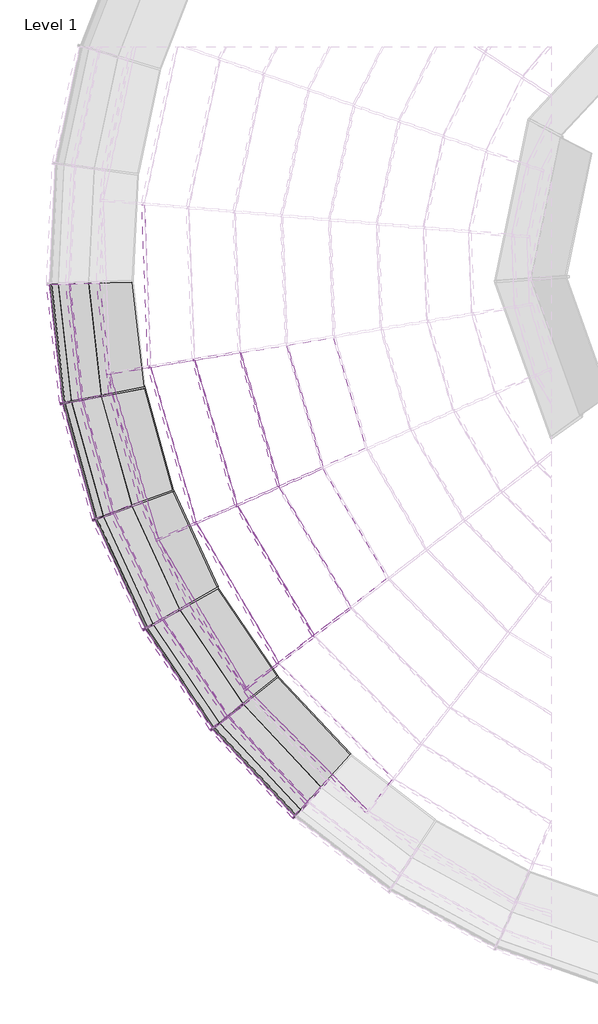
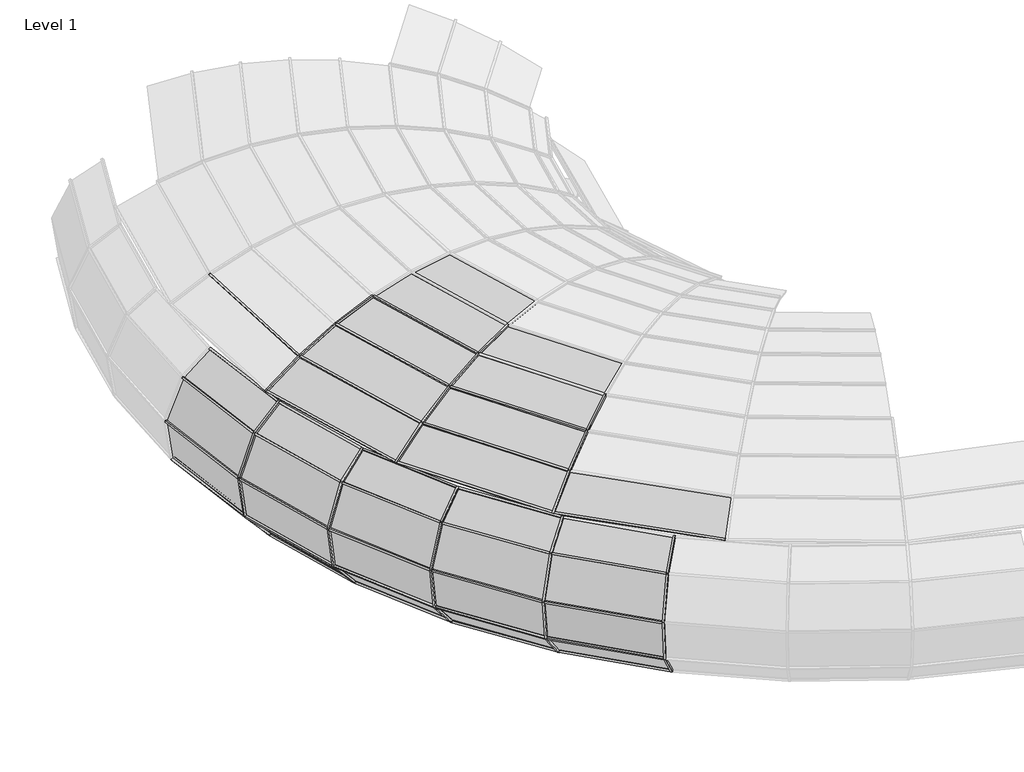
# One storey, part 1 of 23: 71 members, 35 plates.
"""IFC4 building model written with IfcOpenShell, lengths in millimetres."""

from ifc_helpers import new_model, si_unit, origin, place, context, project, spatial, transform, mapped, element, save
from components import member_6c4aaba8, member_0ea93e7c, member_12c77cbe, member_af15374c, member_9c203333, member_86c07ba8, member_0e8a41c0, member_f532ae18, member_ff5bcfe9, member_5080b2ef, member_d6b8231b, member_8c9da58c, member_391bee44, member_01ebdf2a, member_0cd36c09, member_e4cc2466, system_panel_glazed_dfe8d515, system_panel_glazed_f0cf6c0b, system_panel_glazed_2b57bb89, system_panel_glazed_39caee5c, system_panel_glazed_2fe36e08, system_panel_glazed_8ac96967, system_panel_glazed_5e26bc8e, system_panel_glazed_f7be4813, system_panel_glazed_5b1ce257, system_panel_glazed_7bf4cd1b

model = new_model("IFC4")

# Units and contexts
model_context = context("Model", 3, world=origin())
ifc_project = project(units=[si_unit("LENGTHUNIT", "METRE", prefix="MILLI")], contexts=[model_context])

# Site, building, storey
site = spatial("IfcSite", under=ifc_project)
building = spatial("IfcBuilding", under=site)
storey = spatial("IfcBuildingStorey", under=building, Name="Level 1", Elevation=0.0)

# Members
placement = place(None, origin())
member_shape = member_6c4aaba8(model_context)
element("IfcMember", 1, ObjectType="Rectangular Mullion : 1\" Square", at=placement, inside=storey, context=model_context, shape_type="MappedRepresentation", body=[
    mapped(member_shape, transform((-18158.8799169, -2681.3665666, 2378.3537392), x_axis=(0.904906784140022, 0.03462697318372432, 0.42419887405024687), y_axis=(-0.42388864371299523, -0.016220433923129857, 0.9055690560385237), z_axis=(0.03823780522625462, -0.9992686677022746, 0.0))),
])
element("IfcMember", 2, ObjectType="Rectangular Mullion : 1\" Square", at=placement, inside=storey, context=model_context, shape_type="MappedRepresentation", body=[
    mapped(member_shape, transform((-17580.3983963, -4661.1264421, 2378.3537392), x_axis=(0.8688379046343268, 0.2552959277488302, 0.4241988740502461), y_axis=(-0.40699277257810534, -0.11958916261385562, 0.905569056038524), z_axis=(0.28191768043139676, -0.9594385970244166, 0.0))),
])
element("IfcMember", 3, ObjectType="Rectangular Mullion : 1\" Square", at=placement, inside=storey, context=model_context, shape_type="MappedRepresentation", body=[
    mapped(member_shape, transform((-16534.4607919, -6438.7947357, 2378.3537392), x_axis=(0.7797991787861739, 0.46040043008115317, 0.42419887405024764), y_axis=(-0.36528405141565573, -0.2156669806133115, 0.9055690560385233), z_axis=(0.5084100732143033, -0.8611150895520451, 0.0))),
])
member_2_shape = member_0ea93e7c(model_context)
element("IfcMember", 4, ObjectType="Rectangular Mullion : 1\" Square", at=placement, inside=storey, context=model_context, shape_type="MappedRepresentation", body=[
    mapped(member_2_shape, transform((-16521.3628544, -4201.3843389, 2763.3769688), x_axis=(0.9401635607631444, 0.27625397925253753, 0.1994397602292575), y_axis=(-0.19135020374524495, -0.05622559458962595, 0.9799100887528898), z_axis=(0.2819176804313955, -0.959438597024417, 0.0))),
])
member_3_shape = member_12c77cbe(model_context)
element("IfcMember", 5, ObjectType="Rectangular Mullion : 1\" Square", at=placement, inside=storey, context=model_context, shape_type="MappedRepresentation", body=[
    mapped(member_3_shape, transform((-17061.430699, -4435.8353247, 2605.3528615), x_axis=(0.9109237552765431, 0.26766226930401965, 0.31396627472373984), y_axis=(-0.30123136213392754, -0.08851264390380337, 0.9494341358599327), z_axis=(0.2819176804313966, -0.9594385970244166, 0.0))),
])
element("IfcMember", 6, ObjectType="Rectangular Mullion : 1\" Square", at=placement, inside=storey, context=model_context, shape_type="MappedRepresentation", body=[
    mapped(member_3_shape, transform((-16086.5147526, -6093.2113097, 2605.3528615), x_axis=(0.8175720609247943, 0.4827018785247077, 0.3139662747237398), y_axis=(-0.2703610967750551, -0.15962361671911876, 0.9494341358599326), z_axis=(0.5084100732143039, -0.861115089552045, 0.0))),
])
member_4_shape = member_af15374c(model_context)
element("IfcMember", 7, ObjectType="Rectangular Mullion : 1\" Square", at=placement, inside=storey, context=model_context, shape_type="MappedRepresentation", body=[
    mapped(member_4_shape, transform((-18682.519146, -2792.4968531, 2085.6089632), x_axis=(-0.8400695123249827, -0.2468427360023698, -0.4830650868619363), y_axis=(-0.4634712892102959, -0.1361845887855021, 0.8755844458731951), z_axis=(-0.281917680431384, 0.9594385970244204, 0.0))),
])
element("IfcMember", 8, ObjectType="Rectangular Mullion : 1\" Square", at=placement, inside=storey, context=model_context, shape_type="MappedRepresentation", body=[
    mapped(member_4_shape, transform((-18060.8457853, -4897.1736604, 2085.6089632), x_axis=(-0.7539789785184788, -0.44515595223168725, -0.4830650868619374), y_axis=(-0.41597463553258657, -0.24559515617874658, 0.8755844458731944), z_axis=(-0.5084100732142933, 0.861115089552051, 0.0))),
])
element("IfcMember", 9, ObjectType="Rectangular Mullion : 1\" Square", at=placement, inside=storey, context=model_context, shape_type="MappedRepresentation", body=[
    mapped(member_4_shape, transform((-16942.4252334, -6785.3679564, 2085.6089632), x_axis=(-0.6219211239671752, -0.6163296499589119, -0.4830650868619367), y_axis=(-0.3431175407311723, -0.3400326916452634, 0.8755844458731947), z_axis=(-0.7039065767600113, 0.7102925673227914, 0.0))),
])
member_5_shape = member_9c203333(model_context)
element("IfcMember", 10, ObjectType="Rectangular Mullion : 1\" Square", at=placement, inside=storey, context=model_context, shape_type="MappedRepresentation", body=[
    mapped(member_5_shape, transform((-18213.2179459, -2967.9449086, 0.0), x_axis=(0.9245056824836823, 0.2574027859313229, -0.28112817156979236), y_axis=(-0.27082698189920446, -0.07540420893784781, -0.9596702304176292), z_axis=(-0.268220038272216, 0.9633576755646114, 0.0))),
])
element("IfcMember", 11, ObjectType="Rectangular Mullion : 1\" Square", at=placement, inside=storey, context=model_context, shape_type="MappedRepresentation", body=[
    mapped(member_5_shape, transform((-17848.2511854, -4271.2317122, 0.0), x_axis=(0.8716065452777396, 0.40158309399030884, -0.2811281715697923), y_axis=(-0.25533057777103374, -0.11764074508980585, -0.9596702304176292), z_axis=(-0.41845946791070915, 0.9082354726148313, 0.0))),
])
element("IfcMember", 12, ObjectType="Rectangular Mullion : 1\" Square", at=placement, inside=storey, context=model_context, shape_type="MappedRepresentation", body=[
    mapped(member_5_shape, transform((-17280.0586356, -5499.6105036, 0.0), x_axis=(0.7963852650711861, 0.5354787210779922, -0.28112817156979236), y_axis=(-0.2332950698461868, -0.15686446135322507, -0.9596702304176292), z_axis=(-0.5579820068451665, 0.8298530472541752, 0.0))),
])
element("IfcMember", 13, ObjectType="Rectangular Mullion : 1\" Square", at=placement, inside=storey, context=model_context, shape_type="MappedRepresentation", body=[
    mapped(member_5_shape, transform((-16523.1919026, -6621.6220798, 0.0), x_axis=(0.7007682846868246, 0.6556605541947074, -0.281128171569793), y_axis=(-0.20528479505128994, -0.19207082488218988, -0.9596702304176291), z_axis=(-0.683214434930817, 0.7302178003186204, 0.0))),
])
member_6_shape = member_86c07ba8(model_context)
element("IfcMember", 14, ObjectType="Rectangular Mullion : 1\" Square", at=placement, inside=storey, context=model_context, shape_type="MappedRepresentation", body=[
    mapped(member_6_shape, transform((-18792.507961, -3054.4312866, 170.8694653), x_axis=(-0.8388140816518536, -0.09378251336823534, 0.5362795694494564), y_axis=(-0.5329589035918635, -0.05958677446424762, -0.8440404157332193), z_axis=(0.11111140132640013, -0.9938079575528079, 0.0))),
])
element("IfcMember", 15, ObjectType="Rectangular Mullion : 1\" Square", at=placement, inside=storey, context=model_context, shape_type="MappedRepresentation", body=[
    mapped(member_6_shape, transform((-18406.3270557, -4449.0184896, 170.8694653), x_axis=(-0.8131128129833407, -0.2263885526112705, 0.5362795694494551), y_axis=(-0.5166290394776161, -0.14384092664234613, -0.8440404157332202), z_axis=(0.26822003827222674, -0.9633576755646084, 0.0))),
])
element("IfcMember", 16, ObjectType="Rectangular Mullion : 1\" Square", at=placement, inside=storey, context=model_context, shape_type="MappedRepresentation", body=[
    mapped(member_6_shape, transform((-17802.6278462, -5764.1444999, 170.8694653), x_axis=(-0.7665874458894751, -0.35319670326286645, 0.5362795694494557), y_axis=(-0.4870681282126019, -0.22441126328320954, -0.8440404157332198), z_axis=(0.4184594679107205, -0.9082354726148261, 0.0))),
])
element("IfcMember", 17, ObjectType="Rectangular Mullion : 1\" Square", at=placement, inside=storey, context=model_context, shape_type="MappedRepresentation", body=[
    mapped(member_6_shape, transform((-16996.8712767, -6966.1284886, 170.8694653), x_axis=(-0.700429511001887, -0.4709593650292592, 0.5362795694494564), y_axis=(-0.44503323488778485, -0.2992343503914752, -0.8440404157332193), z_axis=(0.557982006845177, -0.8298530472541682, 0.0))),
])
element("IfcMember", 18, ObjectType="Rectangular Mullion : 1\" Square", at=placement, inside=storey, context=model_context, shape_type="MappedRepresentation", body=[
    mapped(member_6_shape, transform((-16009.6930497, -8024.1872329, 170.8694653), x_axis=(-0.6163333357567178, -0.5766605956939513, 0.5362795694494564), y_axis=(-0.3916008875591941, -0.36639394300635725, -0.8440404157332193), z_axis=(0.6832144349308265, -0.7302178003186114, 0.0))),
])
member_7_shape = member_0e8a41c0(model_context)
element("IfcMember", 19, ObjectType="Rectangular Mullion : 1\" Square", at=placement, inside=storey, context=model_context, shape_type="MappedRepresentation", body=[
    mapped(member_7_shape, transform((-19186.4426262, -3130.7824146, 629.7792003), x_axis=(-0.4196634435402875, -0.04691992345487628, 0.9064662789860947), y_axis=(-0.9008534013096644, -0.10071873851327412, -0.4222782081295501), z_axis=(0.11111140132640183, -0.9938079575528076, 0.0))),
])
element("IfcMember", 20, ObjectType="Rectangular Mullion : 1\" Square", at=placement, inside=storey, context=model_context, shape_type="MappedRepresentation", body=[
    mapped(member_7_shape, transform((-18783.0378499, -4587.2320658, 629.7792003), x_axis=(-0.40680495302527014, -0.11326347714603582, 0.906466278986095), y_axis=(-0.8732512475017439, -0.24313242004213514, -0.4222782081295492), z_axis=(0.2682200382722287, -0.9633576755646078, 0.0))),
])
element("IfcMember", 21, ObjectType="Rectangular Mullion : 1\" Square", at=placement, inside=storey, context=model_context, shape_type="MappedRepresentation", body=[
    mapped(member_7_shape, transform((-18152.4670768, -5960.6808271, 629.7792003), x_axis=(-0.3835280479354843, -0.17670631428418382, 0.9064662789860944), y_axis=(-0.8232848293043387, -0.3793193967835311, -0.4222782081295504), z_axis=(0.41845946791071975, -0.9082354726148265, 0.0))),
])
element("IfcMember", 22, ObjectType="Rectangular Mullion : 1\" Square", at=placement, inside=storey, context=model_context, shape_type="MappedRepresentation", body=[
    mapped(member_7_shape, transform((-17310.8794407, -7215.9542041, 629.7792003), x_axis=(-0.3504288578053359, -0.2356236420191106, 0.9064662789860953), y_axis=(-0.7522338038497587, -0.5057918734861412, -0.42227820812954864), z_axis=(0.5579820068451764, -0.8298530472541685, 0.0))),
])
element("IfcMember", 23, ObjectType="Rectangular Mullion : 1\" Square", at=placement, inside=storey, context=model_context, shape_type="MappedRepresentation", body=[
    mapped(member_7_shape, transform((-16279.8282901, -8320.9042143, 629.7792003), x_axis=(-0.30835506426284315, -0.28850656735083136, 0.9064662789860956), y_axis=(-0.661917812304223, -0.6193108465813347, -0.42227820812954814), z_axis=(0.683214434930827, -0.7302178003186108, 0.0))),
])
member_8_shape = member_f532ae18(model_context)
element("IfcMember", 24, ObjectType="Rectangular Mullion : 1\" Square", at=placement, inside=storey, context=model_context, shape_type="MappedRepresentation", body=[
    mapped(member_8_shape, transform((-19276.0387238, -3148.1476371, 1232.5089476), x_axis=(0.1331309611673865, 0.01488453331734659, 0.9909866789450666), y_axis=(-0.9848504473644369, -0.11010991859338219, 0.13396044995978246), z_axis=(0.11111140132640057, -0.9938079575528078, 0.0))),
])
element("IfcMember", 25, ObjectType="Rectangular Mullion : 1\" Square", at=placement, inside=storey, context=model_context, shape_type="MappedRepresentation", body=[
    mapped(member_8_shape, transform((-18868.716568, -4618.6672203, 1232.5089476), x_axis=(0.12905182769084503, 0.03593087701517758, 0.9909866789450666), y_axis=(-0.9546746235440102, -0.2658024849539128, 0.13396044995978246), z_axis=(0.26822003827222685, -0.9633576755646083, 0.0))),
])
element("IfcMember", 26, ObjectType="Rectangular Mullion : 1\" Square", at=placement, inside=storey, context=model_context, shape_type="MappedRepresentation", body=[
    mapped(member_8_shape, transform((-18232.0341538, -6005.3808486, 1232.5089476), x_axis=(0.12166763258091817, 0.0560570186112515, 0.9909866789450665), y_axis=(-0.9000492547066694, -0.4146877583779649, 0.1339604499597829), z_axis=(0.41845946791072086, -0.9082354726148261, 0.0))),
])
element("IfcMember", 27, ObjectType="Rectangular Mullion : 1\" Square", at=placement, inside=storey, context=model_context, shape_type="MappedRepresentation", body=[
    mapped(member_8_shape, transform((-17382.2971366, -7272.7743095, 1232.5089476), x_axis=(0.11116748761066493, 0.0747475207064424, 0.9909866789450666), y_axis=(-0.8223733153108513, -0.552952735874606, 0.13396044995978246), z_axis=(0.5579820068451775, -0.8298530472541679, 0.0))),
])
element("IfcMember", 28, ObjectType="Rectangular Mullion : 1\" Square", at=placement, inside=storey, context=model_context, shape_type="MappedRepresentation", body=[
    mapped(member_8_shape, transform((-16341.2675732, -8388.3892213, 1232.5089476), x_axis=(0.09782030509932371, 0.09152371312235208, 0.9909866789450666), y_axis=(-0.7236361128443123, -0.6770564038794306, 0.13396044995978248), z_axis=(0.6832144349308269, -0.730217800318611, 0.0))),
])
member_9_shape = member_ff5bcfe9(model_context)
element("IfcMember", 29, ObjectType="Rectangular Mullion : 1\" Square", at=placement, inside=storey, context=model_context, shape_type="MappedRepresentation", body=[
    mapped(member_9_shape, transform((-19033.1391432, -3101.0696351, 1789.6405438), x_axis=(0.6433903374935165, 0.07193341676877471, 0.762151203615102), y_axis=(-0.7574319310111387, -0.08468368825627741, 0.6473990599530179), z_axis=(0.1111114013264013, -0.9938079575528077, 0.0))),
])
element("IfcMember", 30, ObjectType="Rectangular Mullion : 1\" Square", at=placement, inside=storey, context=model_context, shape_type="MappedRepresentation", body=[
    mapped(member_9_shape, transform((-18636.4372028, -4533.4449166, 1789.6405438), x_axis=(0.6236768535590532, 0.1736454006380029, 0.7621512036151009), y_axis=(-0.734224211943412, -0.20442422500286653, 0.6473990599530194), z_axis=(0.26822003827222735, -0.963357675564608, 0.0))),
])
element("IfcMember", 31, ObjectType="Rectangular Mullion : 1\" Square", at=placement, inside=storey, context=model_context, shape_type="MappedRepresentation", body=[
    mapped(member_9_shape, transform((-18016.3237584, -5884.1968155, 1789.6405438), x_axis=(0.5879907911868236, 0.27091026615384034, 0.7621512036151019), y_axis=(-0.6922127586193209, -0.31892938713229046, 0.647399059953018), z_axis=(0.41845946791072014, -0.9082354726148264, 0.0))),
])
element("IfcMember", 32, ObjectType="Rectangular Mullion : 1\" Square", at=placement, inside=storey, context=model_context, shape_type="MappedRepresentation", body=[
    mapped(member_9_shape, transform((-17188.6801283, -7118.7321119, 1789.6405438), x_axis=(0.5372460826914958, 0.36123702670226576, 0.7621512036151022), y_axis=(-0.6324734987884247, -0.42526665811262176, 0.6473990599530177), z_axis=(0.5579820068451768, -0.8298530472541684, 0.0))),
])
element("IfcMember", 33, ObjectType="Rectangular Mullion : 1\" Square", at=placement, inside=storey, context=model_context, shape_type="MappedRepresentation", body=[
    mapped(member_9_shape, transform((-16174.70255, -8205.4339327, 1789.6405438), x_axis=(0.4727423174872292, 0.44231238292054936, 0.7621512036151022), y_axis=(-0.5565363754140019, -0.5207127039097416, 0.6473990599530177), z_axis=(0.6832144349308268, -0.7302178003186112, 0.0))),
])
member_10_shape = member_5080b2ef(model_context)
element("IfcMember", 34, ObjectType="Rectangular Mullion : 1\" Square", at=placement, inside=storey, context=model_context, shape_type="MappedRepresentation", body=[
    mapped(member_10_shape, transform((-18641.5264259, -3025.1685395, 2085.6089632), x_axis=(0.7972041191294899, 0.08913036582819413, 0.5970941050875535), y_axis=(-0.5933968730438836, -0.06634396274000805, 0.8021711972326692), z_axis=(0.11111140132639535, -0.9938079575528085, 0.0))),
])
element("IfcMember", 35, ObjectType="Rectangular Mullion : 1\" Square", at=placement, inside=storey, context=model_context, shape_type="MappedRepresentation", body=[
    mapped(member_10_shape, transform((-18261.9468347, -4396.0460052, 2085.6089632), x_axis=(0.7727777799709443, 0.2151583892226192, 0.5970941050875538), y_axis=(-0.5752151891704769, -0.1601526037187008, 0.8021711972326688), z_axis=(0.2682200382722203, -0.9633576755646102, 0.0))),
])
element("IfcMember", 36, ObjectType="Rectangular Mullion : 1\" Square", at=placement, inside=storey, context=model_context, shape_type="MappedRepresentation", body=[
    mapped(member_10_shape, transform((-17668.5465664, -5688.8189217, 2085.6089632), x_axis=(0.7285603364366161, 0.33567613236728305, 0.5970941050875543), y_axis=(-0.5423020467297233, -0.24985968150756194, 0.8021711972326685), z_axis=(0.4184594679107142, -0.9082354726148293, 0.0))),
])
element("IfcMember", 37, ObjectType="Rectangular Mullion : 1\" Square", at=placement, inside=storey, context=model_context, shape_type="MappedRepresentation", body=[
    mapped(member_10_shape, transform((-16876.5228057, -6870.3789306, 2085.6089632), x_axis=(0.6656842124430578, 0.44759709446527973, 0.5970941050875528), y_axis=(-0.495500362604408, -0.33316776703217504, 0.8021711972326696), z_axis=(0.5579820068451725, -0.8298530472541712, 0.0))),
])
member_11_shape = member_d6b8231b(model_context)
element("IfcMember", 38, ObjectType="Rectangular Mullion : 1\" Square", at=placement, inside=storey, context=model_context, shape_type="MappedRepresentation", body=[
    mapped(member_11_shape, transform((-16531.8687259, -6612.3483138, 0.0), x_axis=(0.622594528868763, -0.7825446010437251, 0.0), y_axis=(-0.219345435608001, -0.17451180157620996, -0.959913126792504), z_axis=(0.7511748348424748, 0.5976366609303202, -0.28029767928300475))),
])
element("IfcMember", 39, ObjectType="Rectangular Mullion : 1\" Square", at=placement, inside=storey, context=model_context, shape_type="MappedRepresentation", body=[
    mapped(member_11_shape, transform((-17287.145007, -5489.0713699, 0.0), x_axis=(0.48979122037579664, -0.8718397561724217, 0.0), y_axis=(-0.24437466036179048, -0.13728734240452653, -0.959913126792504), z_axis=(0.8368904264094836, 0.4701570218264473, -0.2802976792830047))),
])
element("IfcMember", 40, ObjectType="Rectangular Mullion : 1\" Square", at=placement, inside=storey, context=model_context, shape_type="MappedRepresentation", body=[
    mapped(member_11_shape, transform((-17853.5656207, -4259.6971217, 0.0), x_axis=(0.3444441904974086, -0.9388067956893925, 0.0), y_axis=(-0.2631453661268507, -0.09654690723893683, -0.9599131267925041), z_axis=(0.9011729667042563, 0.3306364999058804, -0.2802976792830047))),
])
element("IfcMember", 41, ObjectType="Rectangular Mullion : 1\" Square", at=placement, inside=storey, context=model_context, shape_type="MappedRepresentation", body=[
    mapped(member_11_shape, transform((-18216.6243404, -2955.7102662, 0.0), x_axis=(0.19027582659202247, -0.9817306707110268, 0.0), y_axis=(-0.2751768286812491, -0.05333387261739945, -0.9599131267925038), z_axis=(0.9423761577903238, 0.18264826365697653, -0.2802976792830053))),
])
member_12_shape = member_8c9da58c(model_context)
element("IfcMember", 42, ObjectType="Rectangular Mullion : 1\" Square", at=placement, inside=storey, context=model_context, shape_type="MappedRepresentation", body=[
    mapped(member_12_shape, transform((-18791.0968462, -3067.0526477, 170.8694653), x_axis=(0.19027582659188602, -0.9817306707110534, 0.0), y_axis=(-0.7390514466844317, -0.1432405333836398, -0.6582439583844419), z_axis=(0.6462182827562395, 0.1252479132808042, -0.752804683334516))),
])
element("IfcMember", 43, ObjectType="Rectangular Mullion : 1\" Square", at=placement, inside=storey, context=model_context, shape_type="MappedRepresentation", body=[
    mapped(member_12_shape, transform((-18402.9206612, -4461.2531321, 170.8694653), x_axis=(0.344444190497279, -0.9388067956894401, 0.0), y_axis=(-0.7067381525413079, -0.25929919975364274, -0.6582439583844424), z_axis=(0.6179639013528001, 0.2267283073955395, -0.7528046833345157))),
])
element("IfcMember", 44, ObjectType="Rectangular Mullion : 1\" Square", at=placement, inside=storey, context=model_context, shape_type="MappedRepresentation", body=[
    mapped(member_12_shape, transform((-17797.313411, -5775.6790904, 170.8694653), x_axis=(0.4897912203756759, -0.8718397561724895, 0.0), y_axis=(-0.656325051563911, -0.36871712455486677, -0.6582439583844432), z_axis=(0.5738832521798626, 0.32240211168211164, -0.752804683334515))),
])
element("IfcMember", 45, ObjectType="Rectangular Mullion : 1\" Square", at=placement, inside=storey, context=model_context, shape_type="MappedRepresentation", body=[
    mapped(member_12_shape, transform((-16989.7849053, -6976.6676223, 170.8694653), x_axis=(0.6225945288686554, -0.7825446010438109, 0.0), y_axis=(-0.5891032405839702, -0.46869207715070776, -0.6582439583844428), z_axis=(0.515105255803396, 0.40981908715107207, -0.7528046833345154))),
])
element("IfcMember", 46, ObjectType="Rectangular Mullion : 1\" Square", at=placement, inside=storey, context=model_context, shape_type="MappedRepresentation", body=[
    mapped(member_12_shape, transform((-16001.0162264, -8033.460999, 170.8694653), x_axis=(0.7394529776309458, -0.6732082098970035, 0.0), y_axis=(-0.5067942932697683, -0.5566636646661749, -0.658243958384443), z_axis=(0.44313523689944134, 0.486740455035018, -0.7528046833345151))),
])
element("IfcMember", 47, ObjectType="Rectangular Mullion : 1\" Square", at=placement, inside=storey, context=model_context, shape_type="MappedRepresentation", body=[
    mapped(member_12_shape, transform((-19185.0315114, -3143.4037756, 629.7792003), x_axis=(0.19027582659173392, -0.9817306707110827, 0.0), y_axis=(-0.9706664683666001, -0.18813139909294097, -0.1497103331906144), z_axis=(0.1469752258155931, 0.02848625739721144, -0.9887299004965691))),
])
element("IfcMember", 48, ObjectType="Rectangular Mullion : 1\" Square", at=placement, inside=storey, context=model_context, shape_type="MappedRepresentation", body=[
    mapped(member_12_shape, transform((-18779.6314555, -4599.4667083, 629.7792003), x_axis=(0.3444441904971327, -0.9388067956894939, 0.0), y_axis=(-0.9282263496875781, -0.3405622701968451, -0.14971033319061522), z_axis=(0.14054907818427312, 0.05156685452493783, -0.9887299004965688))),
])
element("IfcMember", 49, ObjectType="Rectangular Mullion : 1\" Square", at=placement, inside=storey, context=model_context, shape_type="MappedRepresentation", body=[
    mapped(member_12_shape, transform((-18147.1526415, -5972.2154176, 629.7792003), x_axis=(0.4897912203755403, -0.8718397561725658, 0.0), y_axis=(-0.8620140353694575, -0.4842712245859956, -0.1497103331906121), z_axis=(0.13052342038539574, 0.07332680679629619, -0.9887299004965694))),
])
element("IfcMember", 50, ObjectType="Rectangular Mullion : 1\" Square", at=placement, inside=storey, context=model_context, shape_type="MappedRepresentation", body=[
    mapped(member_12_shape, transform((-17303.7930692, -7226.4933378, 629.7792003), x_axis=(0.6225945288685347, -0.7825446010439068, 0.0), y_axis=(-0.7737252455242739, -0.6155778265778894, -0.14971033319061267), z_axis=(0.11715501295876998, 0.09320883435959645, -0.9887299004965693))),
])
element("IfcMember", 51, ObjectType="Rectangular Mullion : 1\" Square", at=placement, inside=storey, context=model_context, shape_type="MappedRepresentation", body=[
    mapped(member_12_shape, transform((-16271.1514668, -8330.1779803, 629.7792003), x_axis=(0.7394529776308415, -0.6732082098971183, 0.0), y_axis=(-0.6656210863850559, -0.7311192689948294, -0.14971033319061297), z_axis=(0.10078622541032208, 0.11070375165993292, -0.9887299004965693))),
])
member_13_shape = member_391bee44(model_context)
element("IfcMember", 52, ObjectType="Rectangular Mullion : 1\" Square", at=placement, inside=storey, context=model_context, shape_type="MappedRepresentation", body=[
    mapped(member_13_shape, transform((-19274.627609, -3160.7689981, 1232.5089476), x_axis=(0.19027582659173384, -0.9817306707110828, 0.0), y_axis=(-0.8972328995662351, -0.17389874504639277, 0.4058723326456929), z_axis=(-0.39845731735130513, -0.07722769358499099, -0.913929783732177))),
])
element("IfcMember", 53, ObjectType="Rectangular Mullion : 1\" Square", at=placement, inside=storey, context=model_context, shape_type="MappedRepresentation", body=[
    mapped(member_13_shape, transform((-18865.3101735, -4630.9018628, 1232.5089476), x_axis=(0.3444441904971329, -0.9388067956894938, 0.0), y_axis=(-0.858003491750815, -0.3147978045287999, 0.4058723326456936), z_axis=(-0.381035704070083, -0.1398003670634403, -0.9139297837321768))),
])
element("IfcMember", 54, ObjectType="Rectangular Mullion : 1\" Square", at=placement, inside=storey, context=model_context, shape_type="MappedRepresentation", body=[
    mapped(member_13_shape, transform((-18226.7197186, -6016.9154391, 1232.5089476), x_axis=(0.4897912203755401, -0.8718397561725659, 0.0), y_axis=(-0.7968003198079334, -0.4476347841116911, 0.4058723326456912), z_axis=(-0.3538556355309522, -0.19879270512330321, -0.9139297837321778))),
])
element("IfcMember", 55, ObjectType="Rectangular Mullion : 1\" Square", at=placement, inside=storey, context=model_context, shape_type="MappedRepresentation", body=[
    mapped(member_13_shape, transform((-17375.2107651, -7283.3134432, 1232.5089476), x_axis=(0.6225945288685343, -0.7825446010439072, 0.0), y_axis=(-0.7151908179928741, -0.569007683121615, 0.4058723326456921), z_axis=(-0.3176132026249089, -0.25269389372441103, -0.9139297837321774))),
])
element("IfcMember", 56, ObjectType="Rectangular Mullion : 1\" Square", at=placement, inside=storey, context=model_context, shape_type="MappedRepresentation", body=[
    mapped(member_13_shape, transform((-16332.5907498, -8397.6629874, 1232.5089476), x_axis=(0.7394529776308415, -0.6732082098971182, 0.0), y_axis=(-0.6152650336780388, -0.6758080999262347, 0.405872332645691), z_axis=(-0.2732365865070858, -0.30012350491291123, -0.913929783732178))),
])
member_14_shape = member_01ebdf2a(model_context)
element("IfcMember", 57, ObjectType="Rectangular Mullion : 1\" Square", at=placement, inside=storey, context=model_context, shape_type="MappedRepresentation", body=[
    mapped(member_14_shape, transform((-19031.7280284, -3113.6909961, 1789.6405438), x_axis=(0.19027582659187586, -0.9817306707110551, 0.0), y_axis=(-0.5849740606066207, -0.11337775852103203, 0.8030883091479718), z_axis=(-0.7884164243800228, -0.1528082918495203, -0.5958600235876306))),
])
element("IfcMember", 58, ObjectType="Rectangular Mullion : 1\" Square", at=placement, inside=storey, context=model_context, shape_type="MappedRepresentation", body=[
    mapped(member_14_shape, transform((-18633.0308083, -4545.679559, 1789.6405438), x_axis=(0.3444441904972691, -0.9388067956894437, 0.0), y_axis=(-0.5593974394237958, -0.20524052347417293, 0.8030883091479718), z_axis=(-0.7539447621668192, -0.2766191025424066, -0.5958600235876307))),
])
element("IfcMember", 59, ObjectType="Rectangular Mullion : 1\" Square", at=placement, inside=storey, context=model_context, shape_type="MappedRepresentation", body=[
    mapped(member_14_shape, transform((-18011.0093232, -5895.731406, 1789.6405438), x_axis=(0.4897912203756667, -0.8718397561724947, 0.0), y_axis=(-0.5194944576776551, -0.2918470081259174, 0.8030883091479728), z_axis=(-0.7001643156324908, -0.39334560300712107, -0.5958600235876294))),
])
element("IfcMember", 60, ObjectType="Rectangular Mullion : 1\" Square", at=placement, inside=storey, context=model_context, shape_type="MappedRepresentation", body=[
    mapped(member_14_shape, transform((-17181.5937568, -7129.2712456, 1789.6405438), x_axis=(0.6225945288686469, -0.7825446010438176, 0.0), y_axis=(-0.46628704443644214, -0.37097919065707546, 0.8030883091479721), z_axis=(-0.6284524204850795, -0.49999838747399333, -0.5958600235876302))),
])
element("IfcMember", 61, ObjectType="Rectangular Mullion : 1\" Square", at=placement, inside=storey, context=model_context, shape_type="MappedRepresentation", body=[
    mapped(member_14_shape, transform((-16166.0257267, -8214.7076988, 1789.6405438), x_axis=(0.7394529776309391, -0.6732082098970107, 0.0), y_axis=(-0.4011378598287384, -0.44061046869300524, 0.8030883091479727), z_axis=(-0.5406456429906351, -0.5938460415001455, -0.5958600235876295))),
])
member_15_shape = member_0cd36c09(model_context)
element("IfcMember", 62, ObjectType="Rectangular Mullion : 1\" Square", at=placement, inside=storey, context=model_context, shape_type="MappedRepresentation", body=[
    mapped(member_15_shape, transform((-18158.3942968, -2694.0572787, 2378.3537392), x_axis=(0.1613117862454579, -0.9869034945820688, 0.0), y_axis=(-0.36749709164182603, -0.06006829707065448, 0.9280828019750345), z_axis=(-0.9159281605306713, -0.14971069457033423, -0.37237388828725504))),
])
element("IfcMember", 63, ObjectType="Rectangular Mullion : 1\" Square", at=placement, inside=storey, context=model_context, shape_type="MappedRepresentation", body=[
    mapped(member_15_shape, transform((-17600.0444901, -2602.7936393, 2605.3528615), x_axis=(0.16131178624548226, -0.9869034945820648, 0.0), y_axis=(-0.2558309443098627, -0.04181619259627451, 0.9658167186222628), z_axis=(-0.9531678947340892, -0.15579762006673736, -0.2592258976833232))),
])
element("IfcMember", 64, ObjectType="Rectangular Mullion : 1\" Square", at=placement, inside=storey, context=model_context, shape_type="MappedRepresentation", body=[
    mapped(member_15_shape, transform((-17576.8180418, -4673.3113123, 2378.3537392), x_axis=(0.39821020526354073, -0.9172941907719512, 0.0), y_axis=(-0.34157640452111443, -0.14828308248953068, 0.9280828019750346), z_axis=(-0.8513249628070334, -0.36957204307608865, -0.3723738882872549))),
])
element("IfcMember", 65, ObjectType="Rectangular Mullion : 1\" Square", at=placement, inside=storey, context=model_context, shape_type="MappedRepresentation", body=[
    mapped(member_15_shape, transform((-17057.8503445, -4448.0201948, 2605.3528615), x_axis=(0.3982102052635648, -0.9172941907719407, 0.0), y_axis=(-0.23778641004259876, -0.10322639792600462, 0.9658167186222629), z_axis=(-0.8859380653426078, -0.3845980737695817, -0.2592258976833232))),
])
element("IfcMember", 66, ObjectType="Rectangular Mullion : 1\" Square", at=placement, inside=storey, context=model_context, shape_type="MappedRepresentation", body=[
    mapped(member_15_shape, transform((-16517.7824998, -4213.5692091, 2763.3769688), x_axis=(0.39821020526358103, -0.9172941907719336, 0.0), y_axis=(-0.13061359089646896, -0.05670118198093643, 0.9898106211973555), z_axis=(-0.9079475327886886, -0.39415269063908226, -0.14239007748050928))),
])
element("IfcMember", 67, ObjectType="Rectangular Mullion : 1\" Square", at=placement, inside=storey, context=model_context, shape_type="MappedRepresentation", body=[
    mapped(member_15_shape, transform((-16528.003984, -6449.7308973, 2378.3537392), x_axis=(0.610831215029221, -0.7917608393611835, 0.0), y_axis=(-0.2948310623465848, -0.22745759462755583, 0.9280828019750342), z_axis=(-0.7348196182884, -0.5669019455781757, -0.3723738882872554))),
])
element("IfcMember", 68, ObjectType="Rectangular Mullion : 1\" Square", at=placement, inside=storey, context=model_context, shape_type="MappedRepresentation", body=[
    mapped(member_15_shape, transform((-16080.0579447, -6104.1474713, 2605.3528615), x_axis=(0.6108312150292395, -0.7917608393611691, 0.0), y_axis=(-0.20524491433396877, -0.15834327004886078, 0.965816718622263), z_axis=(-0.7646958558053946, -0.5899509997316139, -0.25922589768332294))),
])
member_16_shape = member_e4cc2466(model_context)
element("IfcMember", 69, ObjectType="Rectangular Mullion : 1\" Square", at=placement, inside=storey, context=model_context, shape_type="MappedRepresentation", body=[
    mapped(member_16_shape, transform((-16951.3648469, -6776.3472408, 2085.6089632), x_axis=(0.6108312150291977, -0.7917608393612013, 0.0), y_axis=(-0.3802228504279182, -0.29333603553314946, 0.8771456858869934), z_axis=(-0.6944896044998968, -0.5357879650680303, -0.4802243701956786))),
])
element("IfcMember", 70, ObjectType="Rectangular Mullion : 1\" Square", at=placement, inside=storey, context=model_context, shape_type="MappedRepresentation", body=[
    mapped(member_16_shape, transform((-18067.3025932, -4886.2374988, 2085.6089632), x_axis=(0.39821020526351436, -0.9172941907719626, 0.0), y_axis=(-0.4405070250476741, -0.1912302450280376, 0.8771456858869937), z_axis=(-0.8046006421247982, -0.3492883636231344, -0.4802243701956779))),
])
element("IfcMember", 71, ObjectType="Rectangular Mullion : 1\" Square", at=placement, inside=storey, context=model_context, shape_type="MappedRepresentation", body=[
    mapped(member_16_shape, transform((-18686.0995005, -2780.3119829, 2085.6089632), x_axis=(0.16131178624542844, -0.9869034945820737, 0.0), y_axis=(-0.47393510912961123, -0.07746585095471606, 0.8771456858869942), z_axis=(-0.8656581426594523, -0.14149393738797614, -0.4802243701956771))),
])

# Plates
system_panel_glazed_shape = system_panel_glazed_dfe8d515(model_context)
element("IfcPlate", 72, ObjectType="System Panel : Glazed", at=placement, inside=storey, context=model_context, shape_type="MappedRepresentation", body=[
    mapped(system_panel_glazed_shape, transform((-18316.048413, -2285.81672, 7.1406556), x_axis=(0.11111140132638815, -0.9938079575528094, 0.0), y_axis=(0.2793874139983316, 0.031236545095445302, 0.9596702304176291), z_axis=(-0.9537279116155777, -0.10663030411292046, 0.2811281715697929))),
])
element("IfcPlate", 73, ObjectType="System Panel : Glazed", at=placement, inside=storey, context=model_context, shape_type="MappedRepresentation", body=[
    mapped(system_panel_glazed_shape, transform((-18058.5774249, -3614.2417247, 7.1406556), x_axis=(0.2682200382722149, -0.9633576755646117, 0.0), y_axis=(0.27082698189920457, 0.07540420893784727, 0.9596702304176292), z_axis=(-0.9245056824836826, -0.2574027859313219, 0.28112817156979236))),
])
element("IfcPlate", 74, ObjectType="System Panel : Glazed", at=placement, inside=storey, context=model_context, shape_type="MappedRepresentation", body=[
    mapped(system_panel_glazed_shape, transform((-17592.4941201, -4884.5844564, 7.1406556), x_axis=(0.4184594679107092, -0.9082354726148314, 0.0), y_axis=(0.25533057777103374, 0.1176407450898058, 0.9596702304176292), z_axis=(-0.8716065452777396, -0.40158309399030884, 0.2811281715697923))),
])
element("IfcPlate", 75, ObjectType="System Panel : Glazed", at=placement, inside=storey, context=model_context, shape_type="MappedRepresentation", body=[
    mapped(system_panel_glazed_shape, transform((-16929.7350522, -6064.3110013, 7.1406556), x_axis=(0.5579820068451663, -0.8298530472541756, 0.0), y_axis=(0.23329506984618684, 0.15686446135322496, 0.9596702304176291), z_axis=(-0.7963852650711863, -0.5354787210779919, 0.2811281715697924))),
])
element("IfcPlate", 76, ObjectType="System Panel : Glazed", at=placement, inside=storey, context=model_context, shape_type="MappedRepresentation", body=[
    mapped(system_panel_glazed_shape, transform((-16087.2737086, -7123.2081575, 7.1406556), x_axis=(0.683214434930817, -0.7302178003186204, 0.0), y_axis=(0.20528479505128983, 0.19207082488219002, 0.9596702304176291), z_axis=(-0.7007682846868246, -0.6556605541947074, 0.281128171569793))),
])
system_panel_glazed_2_shape = system_panel_glazed_f0cf6c0b(model_context)
element("IfcPlate", 77, ObjectType="System Panel : Glazed", at=placement, inside=storey, context=model_context, shape_type="MappedRepresentation", body=[
    mapped(system_panel_glazed_2_shape, transform((-18879.7915499, -2348.8452855, 180.4433737), x_axis=(0.111111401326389, -0.9938079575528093, 0.0), y_axis=(0.7491831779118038, 0.08376144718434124, 0.657045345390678), z_axis=(-0.6529768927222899, -0.07300522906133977, 0.7538510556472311))),
])
element("IfcPlate", 78, ObjectType="System Panel : Glazed", at=placement, inside=storey, context=model_context, shape_type="MappedRepresentation", body=[
    mapped(system_panel_glazed_2_shape, transform((-18605.0474686, -3766.3910455, 180.4433737), x_axis=(0.268220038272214, -0.9633576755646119, 0.0), y_axis=(0.7262282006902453, 0.20219795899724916, 0.6570453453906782), z_axis=(-0.6329696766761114, -0.17623272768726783, 0.753851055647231))),
])
element("IfcPlate", 79, ObjectType="System Panel : Glazed", at=placement, inside=storey, context=model_context, shape_type="MappedRepresentation", body=[
    mapped(system_panel_glazed_2_shape, transform((-18107.6957851, -5121.9579362, 180.4433737), x_axis=(0.418459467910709, -0.9082354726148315, 0.0), y_axis=(0.684674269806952, 0.3154561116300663, 0.6570453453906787), z_axis=(-0.5967518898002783, -0.27494684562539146, 0.7538510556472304))),
])
element("IfcPlate", 80, ObjectType="System Panel : Glazed", at=placement, inside=storey, context=model_context, shape_type="MappedRepresentation", body=[
    mapped(system_panel_glazed_2_shape, transform((-17400.4738469, -6380.8294237, 180.4433737), x_axis=(0.5579820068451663, -0.8298530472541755, 0.0), y_axis=(0.6255855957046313, 0.4206353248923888, 0.6570453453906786), z_axis=(-0.5452510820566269, -0.3666194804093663, 0.7538510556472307))),
])
element("IfcPlate", 81, ObjectType="System Panel : Glazed", at=placement, inside=storey, context=model_context, shape_type="MappedRepresentation", body=[
    mapped(system_panel_glazed_2_shape, transform((-16501.4938507, -7510.765377, 180.4433737), x_axis=(0.6832144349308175, -0.7302178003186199, 0.0), y_axis=(0.55047545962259, 0.5150419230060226, 0.657045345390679), z_axis=(-0.4797862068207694, -0.44890286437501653, 0.7538510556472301))),
])
system_panel_glazed_3_shape = system_panel_glazed_2b57bb89(model_context)
element("IfcPlate", 82, ObjectType="System Panel : Glazed", at=placement, inside=storey, context=model_context, shape_type="MappedRepresentation", body=[
    mapped(system_panel_glazed_3_shape, transform((-19270.8845676, -2392.5709298, 642.3369711), x_axis=(0.11111140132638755, -0.9938079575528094, 0.0), y_axis=(0.9826781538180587, 0.10986704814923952, 0.14924100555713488), z_axis=(-0.14831689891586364, -0.016582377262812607, 0.9888008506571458))),
])
element("IfcPlate", 83, ObjectType="System Panel : Glazed", at=placement, inside=storey, context=model_context, shape_type="MappedRepresentation", body=[
    mapped(system_panel_glazed_3_shape, transform((-18984.1573938, -3871.9436157, 642.3369711), x_axis=(0.26822003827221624, -0.9633576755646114, 0.0), y_axis=(0.9525688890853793, 0.2652162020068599, 0.14924100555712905), z_axis=(-0.14377246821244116, -0.04002942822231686, 0.9888008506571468))),
])
element("IfcPlate", 84, ObjectType="System Panel : Glazed", at=placement, inside=storey, context=model_context, shape_type="MappedRepresentation", body=[
    mapped(system_panel_glazed_3_shape, transform((-18465.1134824, -5286.6341946, 642.3369711), x_axis=(0.41845946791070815, -0.908235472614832, 0.0), y_axis=(0.8980640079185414, 0.4137730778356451, 0.1492410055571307), z_axis=(-0.1355459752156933, -0.06245131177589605, 0.9888008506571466))),
])
element("IfcPlate", 85, ObjectType="System Panel : Glazed", at=placement, inside=storey, context=model_context, shape_type="MappedRepresentation", body=[
    mapped(system_panel_glazed_3_shape, transform((-17727.0457263, -6600.4119549, 642.3369711), x_axis=(0.5579820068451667, -0.8298530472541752, 0.0), y_axis=(0.8205593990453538, 0.5517330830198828, 0.14924100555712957), z_axis=(-0.12384810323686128, -0.08327379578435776, 0.9888008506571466))),
])
element("IfcPlate", 86, ObjectType="System Panel : Glazed", at=placement, inside=storey, context=model_context, shape_type="MappedRepresentation", body=[
    mapped(system_panel_glazed_3_shape, transform((-16788.8562942, -7779.6305969, 642.3369711), x_axis=(0.6832144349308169, -0.7302178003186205, 0.0), y_axis=(0.7220399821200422, 0.6755630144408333, 0.1492410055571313), z_axis=(-0.10897843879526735, -0.10196360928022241, 0.9888008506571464))),
])
system_panel_glazed_4_shape = system_panel_glazed_39caee5c(model_context)
element("IfcPlate", 87, ObjectType="System Panel : Glazed", at=placement, inside=storey, context=model_context, shape_type="MappedRepresentation", body=[
    mapped(system_panel_glazed_4_shape, transform((-19354.2995063, -2401.8970281, 1244.1219817), x_axis=(0.11111140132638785, -0.9938079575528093, 0.0), y_axis=(0.9087500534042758, 0.1016016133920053, -0.404784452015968), z_axis=(0.4022780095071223, 0.044976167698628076, 0.9144121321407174))),
])
element("IfcPlate", 88, ObjectType="System Panel : Glazed", at=placement, inside=storey, context=model_context, shape_type="MappedRepresentation", body=[
    mapped(system_panel_glazed_4_shape, transform((-19065.0164982, -3894.4565749, 1244.1219817), x_axis=(0.2682200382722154, -0.9633576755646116, 0.0), y_axis=(0.8809059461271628, 0.24526365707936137, -0.40478445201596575), z_axis=(0.3899522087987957, 0.10857130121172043, 0.9144121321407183))),
])
element("IfcPlate", 89, ObjectType="System Panel : Glazed", at=placement, inside=storey, context=model_context, shape_type="MappedRepresentation", body=[
    mapped(system_panel_glazed_4_shape, transform((-18541.3459232, -5321.7574502, 1244.1219817), x_axis=(0.4184594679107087, -0.9082354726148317, 0.0), y_axis=(0.8305015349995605, 0.38264441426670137, -0.40478445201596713), z_axis=(0.3676395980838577, 0.16938588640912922, 0.9144121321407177))),
])
element("IfcPlate", 90, ObjectType="System Panel : Glazed", at=placement, inside=storey, context=model_context, shape_type="MappedRepresentation", body=[
    mapped(system_panel_glazed_4_shape, transform((-17796.6991644, -6647.2459881, 1244.1219817), x_axis=(0.557982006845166, -0.8298530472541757, 0.0), y_axis=(0.7588276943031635, 0.5102255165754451, -0.4047844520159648), z_axis=(0.3359116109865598, 0.2258624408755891, 0.9144121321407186))),
])
element("IfcPlate", 91, ObjectType="System Panel : Glazed", at=placement, inside=storey, context=model_context, shape_type="MappedRepresentation", body=[
    mapped(system_panel_glazed_4_shape, transform((-16850.1468811, -7836.9759721, 1244.1219817), x_axis=(0.6832144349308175, -0.7302178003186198, 0.0), y_axis=(0.6677200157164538, 0.6247395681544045, -0.40478445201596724), z_axis=(0.2955808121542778, 0.2765545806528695, 0.9144121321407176))),
])
system_panel_glazed_5_shape = system_panel_glazed_2fe36e08(model_context)
element("IfcPlate", 92, ObjectType="System Panel : Glazed", at=placement, inside=storey, context=model_context, shape_type="MappedRepresentation", body=[
    mapped(system_panel_glazed_5_shape, transform((-19104.1846271, -2373.9332605, 1797.2236389), x_axis=(0.11111140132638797, -0.9938079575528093, 0.0), y_axis=(0.5933968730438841, 0.06634396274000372, -0.802171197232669), z_axis=(0.7972041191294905, 0.08913036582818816, 0.5970941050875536))),
])
element("IfcPlate", 93, ObjectType="System Panel : Glazed", at=placement, inside=storey, context=model_context, shape_type="MappedRepresentation", body=[
    mapped(system_panel_glazed_5_shape, transform((-18822.5651405, -3826.952766, 1797.2236389), x_axis=(0.2682200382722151, -0.9633576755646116, 0.0), y_axis=(0.5752151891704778, 0.16015260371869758, -0.8021711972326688), z_axis=(0.7727777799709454, 0.2151583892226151, 0.5970941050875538))),
])
element("IfcPlate", 94, ObjectType="System Panel : Glazed", at=placement, inside=storey, context=model_context, shape_type="MappedRepresentation", body=[
    mapped(system_panel_glazed_5_shape, transform((-18312.7673495, -5216.4423956, 1797.2236389), x_axis=(0.4184594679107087, -0.9082354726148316, 0.0), y_axis=(0.5423020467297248, 0.24985968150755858, -0.8021711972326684), z_axis=(0.728560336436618, 0.3356761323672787, 0.5970941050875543))),
])
element("IfcPlate", 95, ObjectType="System Panel : Glazed", at=placement, inside=storey, context=model_context, shape_type="MappedRepresentation", body=[
    mapped(system_panel_glazed_5_shape, transform((-17587.8473505, -6506.8168427, 1797.2236389), x_axis=(0.5579820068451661, -0.8298530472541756, 0.0), y_axis=(0.4955003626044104, 0.33316776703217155, -0.8021711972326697), z_axis=(0.6656842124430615, 0.4475970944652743, 0.5970941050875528))),
])
element("IfcPlate", 96, ObjectType="System Panel : Glazed", at=placement, inside=storey, context=model_context, shape_type="MappedRepresentation", body=[
    mapped(system_panel_glazed_5_shape, transform((-16666.3705937, -7665.0291744, 1797.2236389), x_axis=(0.6832144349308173, -0.73021780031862, 0.0), y_axis=(0.43600874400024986, 0.40794331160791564, -0.8021711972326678), z_axis=(0.5857596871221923, 0.5480549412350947, 0.5970941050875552))),
])
system_panel_glazed_6_shape = system_panel_glazed_8ac96967(model_context)
element("IfcPlate", 97, ObjectType="System Panel : Glazed", at=placement, inside=storey, context=model_context, shape_type="MappedRepresentation", body=[
    mapped(system_panel_glazed_6_shape, transform((-18355.3632813, -3827.0049354, 2097.8788164), x_axis=(0.28191768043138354, -0.9594385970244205, 0.0), y_axis=(0.46347128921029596, 0.1361845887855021, -0.8755844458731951), z_axis=(0.840069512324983, 0.24684273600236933, 0.4830650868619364))),
])
element("IfcPlate", 98, ObjectType="System Panel : Glazed", at=placement, inside=storey, context=model_context, shape_type="MappedRepresentation", body=[
    mapped(system_panel_glazed_6_shape, transform((-17490.182654, -5819.9854086, 2097.8788164), x_axis=(0.5084100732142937, -0.8611150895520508, 0.0), y_axis=(0.4159746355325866, 0.2455951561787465, -0.8755844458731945), z_axis=(0.7539789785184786, 0.4451559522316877, 0.48306508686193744))),
])
element("IfcPlate", 99, ObjectType="System Panel : Glazed", at=placement, inside=storey, context=model_context, shape_type="MappedRepresentation", body=[
    mapped(system_panel_glazed_6_shape, transform((-16163.0460644, -7540.2229379, 2097.8788164), x_axis=(0.7039065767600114, -0.7102925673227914, 0.0), y_axis=(0.3431175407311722, 0.34003269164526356, -0.8755844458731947), z_axis=(0.6219211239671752, 0.616329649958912, 0.4830650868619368))),
])
system_panel_glazed_7_shape = system_panel_glazed_5e26bc8e(model_context)
element("IfcPlate", 100, ObjectType="System Panel : Glazed", at=placement, inside=storey, context=model_context, shape_type="MappedRepresentation", body=[
    mapped(system_panel_glazed_7_shape, transform((-17856.3097162, -3680.36499, 2383.1142391), x_axis=(0.28191768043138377, -0.9594385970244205, 0.0), y_axis=(0.3596383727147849, 0.1056747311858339, -0.9270885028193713), z_axis=(0.8894844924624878, 0.26136264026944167, 0.3748425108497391))),
])
element("IfcPlate", 101, ObjectType="System Panel : Glazed", at=placement, inside=storey, context=model_context, shape_type="MappedRepresentation", body=[
    mapped(system_panel_glazed_7_shape, transform((-17042.2722232, -5555.5350724, 2383.1142391), x_axis=(0.5084100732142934, -0.8611150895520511, 0.0), y_axis=(0.322782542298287, 0.19057370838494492, -0.9270885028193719), z_axis=(0.7983298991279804, 0.4713411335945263, 0.37484251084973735))),
])
system_panel_glazed_8_shape = system_panel_glazed_f7be4813(model_context)
element("IfcPlate", 102, ObjectType="System Panel : Glazed", at=placement, inside=storey, context=model_context, shape_type="MappedRepresentation", body=[
    mapped(system_panel_glazed_8_shape, transform((-17317.1851811, -3521.9507476, 2608.668686), x_axis=(0.2819176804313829, -0.9594385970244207, 0.0), y_axis=(0.2504984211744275, 0.07360547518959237, -0.965314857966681), z_axis=(0.9261603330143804, 0.27213932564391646, 0.26108853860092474))),
])
element("IfcPlate", 103, ObjectType="System Panel : Glazed", at=placement, inside=storey, context=model_context, shape_type="MappedRepresentation", body=[
    mapped(system_panel_glazed_8_shape, transform((-16558.3973053, -5269.8509804, 2608.668686), x_axis=(0.5084100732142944, -0.8611150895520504, 0.0), y_axis=(0.22482728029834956, 0.13274004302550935, -0.9653148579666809), z_axis=(0.8312471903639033, 0.4907757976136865, 0.261088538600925))),
])
system_panel_glazed_9_shape = system_panel_glazed_5b1ce257(model_context)
element("IfcPlate", 104, ObjectType="System Panel : Glazed", at=placement, inside=storey, context=model_context, shape_type="MappedRepresentation", body=[
    mapped(system_panel_glazed_9_shape, transform((-16756.3290986, -3357.1509926, 2765.1989775), x_axis=(0.2819176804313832, -0.9594385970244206, 0.0), y_axis=(0.13764610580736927, 0.04044539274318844, -0.9896553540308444), z_axis=(0.9495135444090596, 0.279001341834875, 0.1434652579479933))),
])
element("IfcPlate", 105, ObjectType="System Panel : Glazed", at=placement, inside=storey, context=model_context, shape_type="MappedRepresentation", body=[
    mapped(system_panel_glazed_9_shape, transform((-16055.0178945, -4972.6512609, 2765.1989775), x_axis=(0.5084100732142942, -0.8611150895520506, 0.0), y_axis=(0.12354009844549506, 0.07293918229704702, -0.9896553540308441), z_axis=(0.8522071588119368, 0.5031507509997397, 0.14346525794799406))),
])
system_panel_glazed_10_shape = system_panel_glazed_7bf4cd1b(model_context)
element("IfcPlate", 106, ObjectType="System Panel : Glazed", at=placement, inside=storey, context=model_context, shape_type="MappedRepresentation", body=[
    mapped(system_panel_glazed_10_shape, transform((-16181.7209313, -3188.3103787, 2850.4790751), x_axis=(0.28191768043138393, -0.9594385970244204, 0.0), y_axis=(0.022748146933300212, 0.006684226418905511, -0.999718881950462), z_axis=(0.9591688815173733, 0.28183842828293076, 0.023709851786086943))),
])

save(model, "model.ifc")
